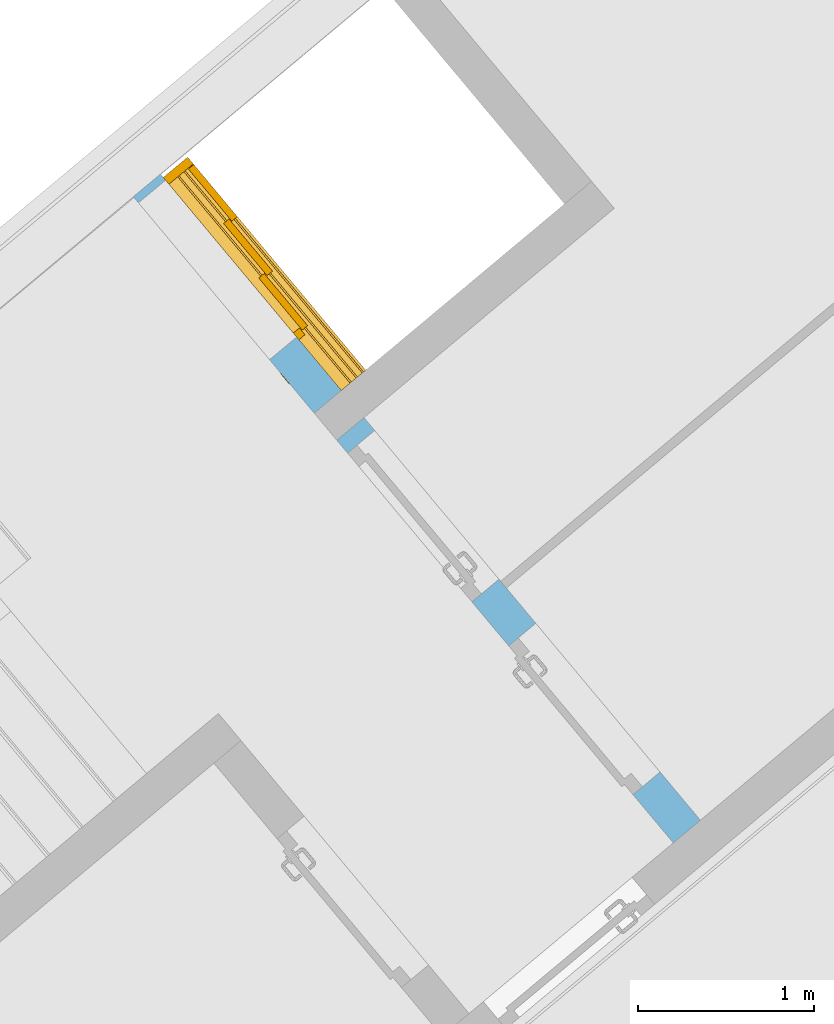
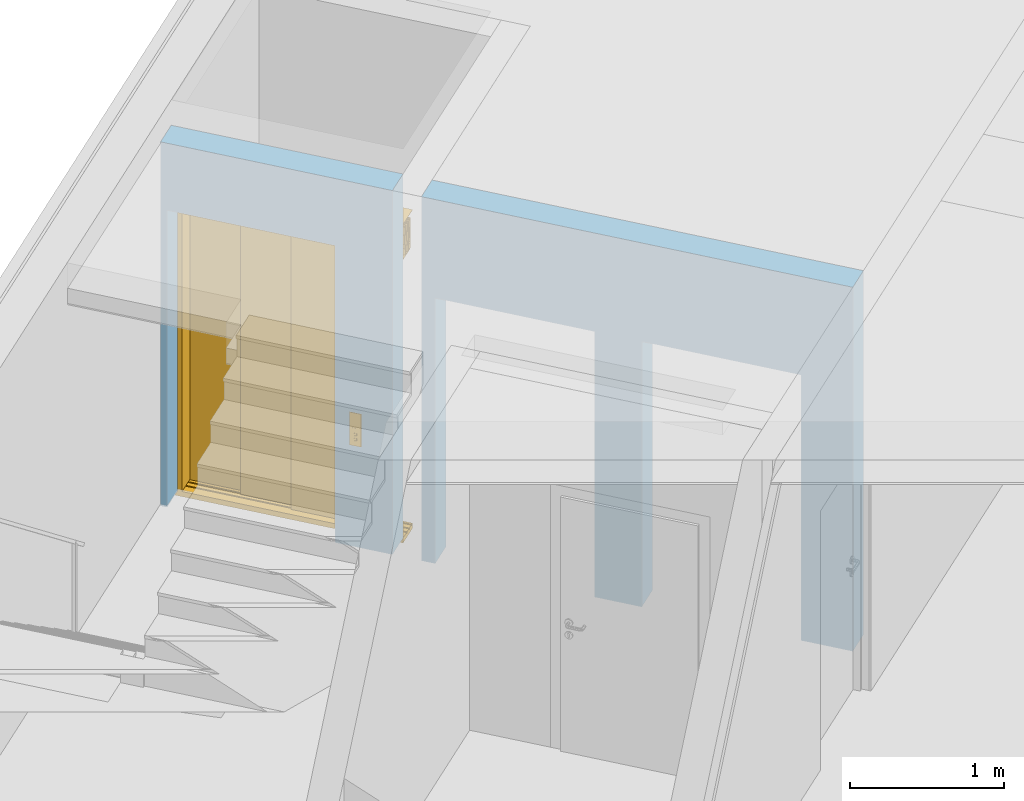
# One storey, part 6 of 14: 1 door, 3 openings, plus 1 element that does not belong to this part.
"""IFC4 building model written with IfcOpenShell, lengths in metres."""

from ifc_helpers import new_model, entity, si_unit, converted_unit, derived_unit, direction, frame, origin_with_axes, place, context, subcontext, project, spatial, polygons, material, type_object, element, fill, save


model = new_model("IFC4")

# Units and contexts
model_context = context("Model", 3, precision=1e-05, world=origin_with_axes(), true_north=direction((0.0, 1.0)))
body_context = subcontext(model_context, "Body", "Model", "MODEL_VIEW")
ifc_project = project(units=[si_unit("LENGTHUNIT", "METRE"), si_unit("AREAUNIT", "SQUARE_METRE"), si_unit("VOLUMEUNIT", "CUBIC_METRE"), converted_unit("PLANEANGLEUNIT", "DEGREE", entity("IfcPlaneAngleMeasure", 0.0174532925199), si_unit("PLANEANGLEUNIT", "RADIAN"), dimensions=[0, 0, 0, 0, 0, 0, 0]), converted_unit("TIMEUNIT", "Year", entity("IfcTimeMeasure", 31556926.0), si_unit("TIMEUNIT", "SECOND"), dimensions=[0, 0, 1, 0, 0, 0, 0]), si_unit("MASSUNIT", "GRAM", prefix="KILO"), si_unit("THERMODYNAMICTEMPERATUREUNIT", "DEGREE_CELSIUS"), si_unit("LUMINOUSINTENSITYUNIT", "LUMEN"), si_unit("ENERGYUNIT", "JOULE", prefix="MEGA"), derived_unit("THERMALCONDUCTANCEUNIT", [(si_unit("POWERUNIT", "WATT"), 1), (si_unit("LENGTHUNIT", "METRE"), -1), (si_unit("THERMODYNAMICTEMPERATUREUNIT", "KELVIN"), -1)]), derived_unit("SPECIFICHEATCAPACITYUNIT", [(si_unit("ENERGYUNIT", "JOULE"), 1), (si_unit("MASSUNIT", "GRAM", prefix="KILO"), -1), (si_unit("THERMODYNAMICTEMPERATUREUNIT", "KELVIN"), -1)]), derived_unit("MASSDENSITYUNIT", [(si_unit("MASSUNIT", "GRAM", prefix="KILO"), 1), (si_unit("VOLUMEUNIT", "CUBIC_METRE"), -1)])], contexts=[model_context])

# Site, building, storey, space
site_placement = place(None, frame((-0.00153261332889, -0.00661245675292, 0.0), z_axis=(0.0, 0.0, 1.0), x_axis=(1.0, 0.0, 0.0)))
site = spatial("IfcSite", under=ifc_project, at=site_placement, Name="Gelände", CompositionType="ELEMENT")
building_placement = place(site_placement, origin_with_axes())
building = spatial("IfcBuilding", under=site, at=building_placement, Name="Gebäude", CompositionType="ELEMENT")
storey_placement = place(building_placement, frame((0.0, 0.0, -3.3), z_axis=(0.0, 0.0, 1.0), x_axis=(1.0, 0.0, 0.0)))
storey = spatial("IfcBuildingStorey", under=building, at=storey_placement, Name="UG1", CompositionType="ELEMENT", Elevation=-3.3)
space_placement = place(storey_placement, frame((1.60331277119, 27.0712922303, 0.0), z_axis=(0.0, 0.0, 1.0), x_axis=(-0.76736623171, -0.641209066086, 0.0)))
space = spatial("IfcSpace", under=storey, at=space_placement, CompositionType="ELEMENT", PredefinedType="NOTDEFINED")

# Wall, openings, door
ifc_material = material(Name="Stahlbeton Wand")
wall_type = type_object("IfcWallType", Name="Stahlbeton Wand 200", PredefinedType="NOTDEFINED")
wall_placement = place(space_placement, frame((1.65065098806, 4.97700945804, 0.0), z_axis=(0.0, 0.0, 1.0), x_axis=(5.92263839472e-07, -1.0, 0.0)))
wall = element("IfcWall", 1, at=wall_placement, inside=space, type_object=wall_type, material=ifc_material, Name="Wand-009", PredefinedType="NOTDEFINED", context=body_context, shape_type="Tessellation", body=[
    polygons([(4.93202469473, -8.03421372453e-06, 2.35), (4.93202469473, -8.03415251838e-06, 0.015), (4.93202469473, -8.03415251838e-06, 0.0), (4.97700945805, 0.0, 0.0), (4.97700945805, 0.0, 2.88), (3.37702469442, 0.0, 2.88), (3.37702469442, 0.0, 0.0), (3.77202469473, -8.03421372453e-06, 0.0), (3.77202469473, -8.03421372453e-06, 0.015), (3.77202469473, -8.03421372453e-06, 2.35), (4.93202469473, 0.2, 2.35), (4.93202469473, 0.2, 0.015), (4.93202469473, 0.2, 0.0), (4.97700957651, 0.2, 0.0), (4.97700957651, 0.2, 2.88), (3.37702469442, 0.2, 2.88), (3.37702469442, 0.2, 0.0), (3.77202469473, 0.2, 0.0), (3.77202469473, 0.2, 0.015), (3.77202469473, 0.2, 2.35)], [[[1, 2, 3, 4, 5, 6, 7, 8, 9, 10]], [[2, 1, 11, 12]], [[2, 12, 13, 3]], [[3, 13, 14, 4]], [[14, 15, 5, 4]], [[15, 16, 6, 5]], [[17, 7, 6, 16]], [[18, 8, 7, 17]], [[19, 9, 8, 18]], [[10, 9, 19, 20]], [[1, 10, 20, 11]], [[20, 19, 18, 17, 16, 15, 14, 13, 12, 11]]], closed=True),
    polygons([(1.98187331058, 0.13, 0.015), (1.98187331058, 0.2, 0.015), (1.98187331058, 0.2, 2.1), (1.98187331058, 0.0, 2.1), (1.98187331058, 0.0, 0.015), (1.98187331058, 0.0, 0.0), (1.98187331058, 0.2, 0.0), (1.65642288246, 0.2, 0.0), (1.65642288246, 0.2, 0.015), (1.65642288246, 0.2, 2.1), (0.556422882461, 0.2, 2.1), (0.556422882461, 0.2, 0.015), (0.556422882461, 0.2, 0.0), (0.200000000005, 0.2, 0.0), (0.200000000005, 0.2, 2.88), (3.17702469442, 0.2, 2.88), (3.17702469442, 0.2, 0.0), (3.08187331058, 0.2, 0.0), (3.08187331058, 0.2, 0.015), (3.08187331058, 0.2, 2.1), (3.08187331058, 0.0, 2.1), (3.08187331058, 0.0, 0.015), (3.08187331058, 0.0, 0.0), (3.17702469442, 0.0, 0.0), (3.17702469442, 0.0, 2.88), (0.200000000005, 0.0, 2.88), (0.200000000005, 0.0, 0.0), (0.556422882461, 0.0, 0.0), (0.556422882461, 0.0, 0.015), (0.556422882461, 0.0, 2.1), (1.65642288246, 0.0, 2.1), (1.65642288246, 0.0, 0.015), (1.65642288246, 0.0, 0.0), (3.08187331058, 0.13, 0.015)], [[[1, 2, 3, 4, 5]], [[2, 1, 5, 6, 7]], [[3, 2, 7, 8, 9, 10, 11, 12, 13, 14, 15, 16, 17, 18, 19, 20]], [[4, 3, 20, 21]], [[6, 5, 4, 21, 22, 23, 24, 25, 26, 27, 28, 29, 30, 31, 32, 33]], [[33, 8, 7, 6]], [[8, 33, 32, 9]], [[10, 9, 32, 31]], [[11, 10, 31, 30]], [[12, 11, 30, 29]], [[28, 13, 12, 29]], [[27, 14, 13, 28]], [[26, 15, 14, 27]], [[26, 25, 16, 15]], [[25, 24, 17, 16]], [[17, 24, 23, 18]], [[34, 19, 18, 23, 22]], [[20, 19, 34, 22, 21]]], closed=True),
])
opening_1_placement = place(wall_placement, frame((1.10642288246, 0.0, 0.0), z_axis=(0.0, 0.0, 1.0), x_axis=(1.0, 0.0, 0.0)))
element("IfcOpeningElement", 2, at=opening_1_placement, cuts=wall, Name="Tür-001", context=body_context, identifier="Reference", shape_type="Tessellation", body=[
    polygons([(-0.55, -2.62211393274, 2.1), (-0.55, -2.62211393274, 0.0), (0.55, -2.62211393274, 0.0), (0.55, -2.62211393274, 2.1), (-0.55, 2.82211393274, 2.1), (-0.55, 2.82211393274, 0.0), (0.55, 2.82211393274, 0.0), (0.55, 2.82211393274, 2.1)], [[[1, 2, 3, 4]], [[5, 6, 2, 1]], [[6, 7, 3, 2]], [[7, 8, 4, 3]], [[8, 5, 1, 4]], [[7, 6, 5, 8]]], closed=True),
])
opening_2_placement = place(wall_placement, frame((2.53187331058, 0.0, 0.0), z_axis=(0.0, 0.0, 1.0), x_axis=(1.0, 0.0, 0.0)))
element("IfcOpeningElement", 3, at=opening_2_placement, cuts=wall, Name="Tür-001", context=body_context, identifier="Reference", shape_type="Tessellation", body=[
    polygons([(0.55, 0.13, 0.0), (0.55, 0.13, 2.1), (0.55, -2.62211393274, 2.1), (0.55, -2.62211393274, 0.0), (0.55, 2.82211393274, 0.0), (0.55, 2.82211393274, 2.1), (-0.55, 0.13, 2.1), (-0.55, -2.62211393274, 2.1), (-0.55, 2.82211393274, 2.1), (-0.55, -2.62211393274, 0.0), (-0.55, 0.13, 0.0), (-0.55, 2.82211393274, 0.0)], [[[1, 2, 3, 4]], [[2, 1, 5, 6]], [[7, 8, 3, 2, 6, 9]], [[8, 10, 4, 3]], [[1, 4, 10, 11, 12, 5]], [[6, 5, 12, 9]], [[7, 11, 10, 8]], [[11, 7, 9, 12]]], closed=True),
])
opening_3_placement = place(wall_placement, frame((4.35202469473, 0.0, 0.0), z_axis=(0.0, 0.0, 1.0), x_axis=(1.0, 0.0, 0.0)))
opening_3 = element("IfcOpeningElement", 4, at=opening_3_placement, cuts=wall, Name="Tür-003", context=body_context, identifier="Reference", shape_type="Tessellation", body=[
    polygons([(0.58, 2.82211393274, 2.35), (0.58, 2.82211393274, 0.0), (-0.58, 2.82211393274, 0.0), (-0.58, 2.82211393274, 2.35), (0.58, -2.62211393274, 2.35), (0.58, -2.62211393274, 0.0), (-0.58, -2.62211393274, 0.0), (-0.58, -2.62211393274, 2.35)], [[[1, 2, 3, 4]], [[5, 6, 2, 1]], [[6, 7, 3, 2]], [[7, 8, 4, 3]], [[8, 5, 1, 4]], [[7, 6, 5, 8]]], closed=True),
])
door_type = type_object("IfcDoorType", Name="Teleskoptür 26", OperationType="DOUBLE_DOOR_SLIDING", PredefinedType="NOTDEFINED")
door_placement = place(opening_3_placement, frame((0.55, 0.0, 0.0), z_axis=(0.0, 0.0, 1.0), x_axis=(-1.0, 0.0, 0.0)))
door = element("IfcDoor", 5, at=door_placement, inside=space, type_object=door_type, Name="Tür-003", OverallHeight=2.35, OverallWidth=1.16, PredefinedType="NOTDEFINED", context=body_context, shape_type="Tessellation", body=[
    polygons([(1.525, 0.135, 2.2), (-0.05, 0.135, 2.2), (-0.05, 0.135, 2.238), (1.525, 0.135, 2.238), (1.525, 0.0, 2.2), (-0.05, 0.0, 2.2), (-0.05, 0.0, 2.48), (-0.05, 0.18, 2.48), (-0.05, 0.18, 2.477), (-0.05, 0.003, 2.477), (-0.05, 0.003, 2.203), (-0.05, 0.132, 2.203), (-0.05, 0.132, 2.238), (1.525, 0.132, 2.238), (1.525, 0.132, 2.203), (1.525, 0.003, 2.203), (1.525, 0.003, 2.477), (1.525, 0.18, 2.477), (1.525, 0.18, 2.48), (1.525, 0.0, 2.48)], [[[1, 2, 3, 4]], [[5, 6, 2, 1]], [[2, 6, 7, 8, 9, 10, 11, 12, 13, 3]], [[4, 3, 13, 14]], [[1, 4, 14, 15, 16, 17, 18, 19, 20, 5]], [[20, 7, 6, 5]], [[19, 8, 7, 20]], [[18, 9, 8, 19]], [[17, 10, 9, 18]], [[16, 11, 10, 17]], [[15, 12, 11, 16]], [[14, 13, 12, 15]]], closed=True),
    polygons([(1.525, 0.05, 2.203), (-0.05, 0.05, 2.203), (-0.05, 0.055, 2.203), (1.525, 0.055, 2.203), (1.525, 0.05, 2.44), (-0.05, 0.05, 2.44), (-0.05, 0.055, 2.44), (1.525, 0.055, 2.44)], [[[1, 2, 3, 4]], [[5, 6, 2, 1]], [[2, 6, 7, 3]], [[4, 3, 7, 8]], [[1, 4, 8, 5]], [[8, 7, 6, 5]]], closed=True),
    polygons([(1.525, 0.05, 2.43), (-0.05, 0.05, 2.43), (-0.05, 0.04, 2.43), (1.525, 0.04, 2.43), (1.525, 0.05, 2.37), (-0.05, 0.05, 2.37), (-0.05, 0.04, 2.37), (1.525, 0.04, 2.37)], [[[1, 2, 3, 4]], [[5, 6, 2, 1]], [[2, 6, 7, 3]], [[4, 3, 7, 8]], [[1, 4, 8, 5]], [[8, 7, 6, 5]]], closed=True),
    polygons([(1.525, 0.05, 2.3), (-0.05, 0.05, 2.3), (-0.05, 0.04, 2.3), (1.525, 0.04, 2.3), (1.525, 0.05, 2.26), (-0.05, 0.05, 2.26), (-0.05, 0.04, 2.26), (1.525, 0.04, 2.26)], [[[1, 2, 3, 4]], [[5, 6, 2, 1]], [[2, 6, 7, 3]], [[4, 3, 7, 8]], [[1, 4, 8, 5]], [[8, 7, 6, 5]]], closed=True),
    polygons([(1.525, 0.05, 2.37), (-0.05, 0.05, 2.37), (-0.05, 0.03, 2.37), (1.525, 0.03, 2.37), (1.525, 0.05, 2.3), (-0.05, 0.05, 2.3), (-0.05, 0.03, 2.3), (1.525, 0.03, 2.3)], [[[1, 2, 3, 4]], [[5, 6, 2, 1]], [[2, 6, 7, 3]], [[4, 3, 7, 8]], [[1, 4, 8, 5]], [[8, 7, 6, 5]]], closed=True),
    polygons([(1.525, 0.095, 2.203), (-0.05, 0.095, 2.203), (-0.05, 0.1, 2.203), (1.525, 0.1, 2.203), (1.525, 0.095, 2.44), (-0.05, 0.095, 2.44), (-0.05, 0.1, 2.44), (1.525, 0.1, 2.44)], [[[1, 2, 3, 4]], [[5, 6, 2, 1]], [[2, 6, 7, 3]], [[4, 3, 7, 8]], [[1, 4, 8, 5]], [[8, 7, 6, 5]]], closed=True),
    polygons([(1.525, 0.095, 2.43), (-0.05, 0.095, 2.43), (-0.05, 0.085, 2.43), (1.525, 0.085, 2.43), (1.525, 0.095, 2.37), (-0.05, 0.095, 2.37), (-0.05, 0.085, 2.37), (1.525, 0.085, 2.37)], [[[1, 2, 3, 4]], [[5, 6, 2, 1]], [[2, 6, 7, 3]], [[4, 3, 7, 8]], [[1, 4, 8, 5]], [[8, 7, 6, 5]]], closed=True),
    polygons([(1.525, 0.095, 2.3), (-0.05, 0.095, 2.3), (-0.05, 0.085, 2.3), (1.525, 0.085, 2.3), (1.525, 0.095, 2.26), (-0.05, 0.095, 2.26), (-0.05, 0.085, 2.26), (1.525, 0.085, 2.26)], [[[1, 2, 3, 4]], [[5, 6, 2, 1]], [[2, 6, 7, 3]], [[4, 3, 7, 8]], [[1, 4, 8, 5]], [[8, 7, 6, 5]]], closed=True),
    polygons([(1.525, 0.095, 2.37), (-0.05, 0.095, 2.37), (-0.05, 0.075, 2.37), (1.525, 0.075, 2.37), (1.525, 0.095, 2.3), (-0.05, 0.095, 2.3), (-0.05, 0.075, 2.3), (1.525, 0.075, 2.3)], [[[1, 2, 3, 4]], [[5, 6, 2, 1]], [[2, 6, 7, 3]], [[4, 3, 7, 8]], [[1, 4, 8, 5]], [[8, 7, 6, 5]]], closed=True),
    polygons([(1.525, 0.14, 2.203), (-0.05, 0.14, 2.203), (-0.05, 0.145, 2.203), (1.525, 0.145, 2.203), (1.525, 0.14, 2.44), (-0.05, 0.14, 2.44), (-0.05, 0.145, 2.44), (1.525, 0.145, 2.44)], [[[1, 2, 3, 4]], [[5, 6, 2, 1]], [[2, 6, 7, 3]], [[4, 3, 7, 8]], [[1, 4, 8, 5]], [[8, 7, 6, 5]]], closed=True),
    polygons([(1.525, 0.14, 2.43), (-0.05, 0.14, 2.43), (-0.05, 0.13, 2.43), (1.525, 0.13, 2.43), (1.525, 0.14, 2.37), (-0.05, 0.14, 2.37), (-0.05, 0.13, 2.37), (1.525, 0.13, 2.37)], [[[1, 2, 3, 4]], [[5, 6, 2, 1]], [[2, 6, 7, 3]], [[4, 3, 7, 8]], [[1, 4, 8, 5]], [[8, 7, 6, 5]]], closed=True),
    polygons([(1.525, 0.14, 2.3), (-0.05, 0.14, 2.3), (-0.05, 0.13, 2.3), (1.525, 0.13, 2.3), (1.525, 0.14, 2.26), (-0.05, 0.14, 2.26), (-0.05, 0.13, 2.26), (1.525, 0.13, 2.26)], [[[1, 2, 3, 4]], [[5, 6, 2, 1]], [[2, 6, 7, 3]], [[4, 3, 7, 8]], [[1, 4, 8, 5]], [[8, 7, 6, 5]]], closed=True),
    polygons([(1.525, 0.14, 2.37), (-0.05, 0.14, 2.37), (-0.05, 0.12, 2.37), (1.525, 0.12, 2.37), (1.525, 0.14, 2.3), (-0.05, 0.14, 2.3), (-0.05, 0.12, 2.3), (1.525, 0.12, 2.3)], [[[1, 2, 3, 4]], [[5, 6, 2, 1]], [[2, 6, 7, 3]], [[4, 3, 7, 8]], [[1, 4, 8, 5]], [[8, 7, 6, 5]]], closed=True),
    polygons([(1.525, 0.0, 0.0), (-0.05, 0.0, 0.0), (-0.05, 0.0, -0.04), (1.525, 0.0, -0.04), (1.525, 0.065, 0.0), (-0.05, 0.065, 0.0), (-0.05, 0.065, -0.01), (-0.05, 0.075, -0.01), (-0.05, 0.075, 0.0), (-0.05, 0.11, 0.0), (-0.05, 0.11, -0.01), (-0.05, 0.12, -0.01), (-0.05, 0.12, 0.0), (-0.05, 0.155, 0.0), (-0.05, 0.155, -0.01), (-0.05, 0.165, -0.01), (-0.05, 0.165, 0.0), (-0.05, 0.18, 0.0), (-0.05, 0.18, -0.04), (1.525, 0.18, -0.04), (1.525, 0.18, 0.0), (1.525, 0.165, 0.0), (1.525, 0.165, -0.01), (1.525, 0.155, -0.01), (1.525, 0.155, 0.0), (1.525, 0.12, 0.0), (1.525, 0.12, -0.01), (1.525, 0.11, -0.01), (1.525, 0.11, 0.0), (1.525, 0.075, 0.0), (1.525, 0.075, -0.01), (1.525, 0.065, -0.01)], [[[1, 2, 3, 4]], [[5, 6, 2, 1]], [[2, 6, 7, 8, 9, 10, 11, 12, 13, 14, 15, 16, 17, 18, 19, 3]], [[4, 3, 19, 20]], [[1, 4, 20, 21, 22, 23, 24, 25, 26, 27, 28, 29, 30, 31, 32, 5]], [[32, 7, 6, 5]], [[31, 8, 7, 32]], [[30, 9, 8, 31]], [[29, 10, 9, 30]], [[28, 11, 10, 29]], [[27, 12, 11, 28]], [[26, 13, 12, 27]], [[25, 14, 13, 26]], [[24, 15, 14, 25]], [[23, 16, 15, 24]], [[22, 17, 16, 23]], [[21, 18, 17, 22]], [[20, 19, 18, 21]]], closed=True),
    polygons([(1.1, 0.0, 0.0), (1.1, 0.0, 2.2), (1.1, 0.045, 2.2), (1.1, 0.045, 0.0), (1.15, 0.0, 0.0), (1.15, 0.0, 2.2), (1.15, 0.045, 2.2), (1.15, 0.045, 0.0)], [[[1, 2, 3, 4]], [[5, 6, 2, 1]], [[2, 6, 7, 3]], [[4, 3, 7, 8]], [[1, 4, 8, 5]], [[8, 7, 6, 5]]], closed=True),
    polygons([(-0.05, 0.0, 0.0), (-0.05, 0.0, 2.2), (-0.05, 0.18, 2.2), (-0.05, 0.18, 0.0), (0.0, 0.0, 0.0), (0.0, 0.0, 2.2), (0.0, 0.18, 2.2), (0.0, 0.18, 0.0)], [[[1, 2, 3, 4]], [[5, 6, 2, 1]], [[2, 6, 7, 3]], [[4, 3, 7, 8]], [[1, 4, 8, 5]], [[8, 7, 6, 5]]], closed=True),
    polygons([(1.23, -0.2, 0.8), (1.31, -0.2, 0.8), (1.31, -0.203, 0.8), (1.23, -0.203, 0.8), (1.23, -0.2, 1.06), (1.31, -0.2, 1.06), (1.24, -0.2, 1.03), (1.24, -0.2, 0.94), (1.3, -0.2, 0.94), (1.3, -0.2, 1.03), (1.26, -0.2, 0.84), (1.28, -0.2, 0.84), (1.28, -0.2, 0.86), (1.26, -0.2, 0.86), (1.26, -0.2, 0.88), (1.28, -0.2, 0.88), (1.28, -0.2, 0.9), (1.26, -0.2, 0.9), (1.31, -0.203, 1.06), (1.23, -0.203, 1.06), (1.24, -0.203, 1.03), (1.3, -0.203, 1.03), (1.3, -0.203, 0.94), (1.24, -0.203, 0.94), (1.26, -0.203, 0.84), (1.26, -0.203, 0.86), (1.28, -0.203, 0.86), (1.28, -0.203, 0.84), (1.26, -0.203, 0.88), (1.26, -0.203, 0.9), (1.28, -0.203, 0.9), (1.28, -0.203, 0.88)], [[[1, 2, 3, 4]], [[1, 5, 6, 2], [7, 8, 9, 10], [11, 12, 13, 14], [15, 16, 17, 18]], [[2, 6, 19, 3]], [[4, 3, 19, 20], [21, 22, 23, 24], [25, 26, 27, 28], [29, 30, 31, 32]], [[5, 1, 4, 20]], [[6, 5, 20, 19]], [[8, 7, 21, 24]], [[9, 8, 24, 23]], [[10, 9, 23, 22]], [[7, 10, 22, 21]], [[12, 11, 25, 28]], [[13, 12, 28, 27]], [[14, 13, 27, 26]], [[11, 14, 26, 25]], [[16, 15, 29, 32]], [[17, 16, 32, 31]], [[18, 17, 31, 30]], [[15, 18, 30, 29]]], closed=True),
    polygons([(1.24, -0.2, 0.94), (1.3, -0.2, 0.94), (1.3, -0.2025, 0.94), (1.24, -0.2025, 0.94), (1.24, -0.2, 1.03), (1.3, -0.2, 1.03), (1.3, -0.2025, 1.03), (1.24, -0.2025, 1.03)], [[[1, 2, 3, 4]], [[1, 5, 6, 2]], [[2, 6, 7, 3]], [[4, 3, 7, 8]], [[5, 1, 4, 8]], [[6, 5, 8, 7]]], closed=True),
    polygons([(1.254, -0.203, 1.005), (1.26, -0.203, 1.021), (1.266, -0.203, 1.005)], [[[1, 2, 3]]], closed=False),
    polygons([(1.28, -0.203, 1.005), (1.274, -0.203, 1.021), (1.286, -0.203, 1.021)], [[[1, 2, 3]]], closed=False),
    polygons([(1.26727272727, -0.2035, 0.982), (1.26727272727, -0.2035, 0.971636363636), (1.26590909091, -0.2035, 0.970272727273), (1.26454545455, -0.2035, 0.971636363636), (1.26454545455, -0.2035, 0.982), (1.26590909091, -0.2035, 0.983363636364)], [[[1, 2, 3, 4, 5, 6]]], closed=False),
    polygons([(1.26727272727, -0.2035, 0.968363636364), (1.26727272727, -0.2035, 0.958), (1.26590909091, -0.2035, 0.956636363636), (1.26454545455, -0.2035, 0.958), (1.26454545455, -0.2035, 0.968363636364), (1.26590909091, -0.2035, 0.969727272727)], [[[1, 2, 3, 4, 5, 6]]], closed=False),
    polygons([(1.28609090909, -0.2035, 0.982272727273), (1.27572727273, -0.2035, 0.982272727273), (1.27436363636, -0.2035, 0.983636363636), (1.27572727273, -0.2035, 0.985), (1.28609090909, -0.2035, 0.985), (1.28745454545, -0.2035, 0.983636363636)], [[[1, 2, 3, 4, 5, 6]]], closed=False),
    polygons([(1.28909090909, -0.2035, 0.982), (1.28909090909, -0.2035, 0.971636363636), (1.28772727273, -0.2035, 0.970272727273), (1.28636363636, -0.2035, 0.971636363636), (1.28636363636, -0.2035, 0.982), (1.28772727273, -0.2035, 0.983363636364)], [[[1, 2, 3, 4, 5, 6]]], closed=False),
    polygons([(1.28609090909, -0.2035, 0.968636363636), (1.27572727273, -0.2035, 0.968636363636), (1.27436363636, -0.2035, 0.97), (1.27572727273, -0.2035, 0.971363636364), (1.28609090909, -0.2035, 0.971363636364), (1.28745454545, -0.2035, 0.97)], [[[1, 2, 3, 4, 5, 6]]], closed=False),
    polygons([(1.27545454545, -0.2035, 0.968363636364), (1.27545454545, -0.2035, 0.958), (1.27409090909, -0.2035, 0.956636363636), (1.27272727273, -0.2035, 0.958), (1.27272727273, -0.2035, 0.968363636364), (1.27409090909, -0.2035, 0.969727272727)], [[[1, 2, 3, 4, 5, 6]]], closed=False),
    polygons([(1.28609090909, -0.2035, 0.955), (1.27572727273, -0.2035, 0.955), (1.27436363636, -0.2035, 0.956363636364), (1.27572727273, -0.2035, 0.957727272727), (1.28609090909, -0.2035, 0.957727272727), (1.28745454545, -0.2035, 0.956363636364)], [[[1, 2, 3, 4, 5, 6]]], closed=False),
    polygons([(1.28, -0.2, 0.84), (1.26, -0.2, 0.84), (1.26, -0.2, 0.86), (1.28, -0.2, 0.86), (1.28000000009, -0.2015, 0.83999999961), (1.25999999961, -0.2015, 0.83999999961), (1.25999999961, -0.2015, 0.860000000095), (1.28000000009, -0.2015, 0.860000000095), (1.27859999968, -0.202900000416, 0.841400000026), (1.26140000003, -0.202900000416, 0.841400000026), (1.26140000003, -0.202900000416, 0.858599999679), (1.27859999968, -0.202900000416, 0.858599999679)], [[[1, 2, 3, 4]], [[2, 1, 5, 6]], [[3, 2, 6, 7]], [[4, 3, 7, 8]], [[1, 4, 8, 5]], [[6, 5, 9, 10]], [[7, 6, 10, 11]], [[8, 7, 11, 12]], [[5, 8, 12, 9]], [[11, 10, 9, 12]]], closed=True),
    polygons([(1.275, -0.203, 0.855), (1.27, -0.203, 0.844), (1.265, -0.203, 0.855)], [[[1, 2, 3]]], closed=False),
    polygons([(1.28, -0.2, 0.88), (1.26, -0.2, 0.88), (1.26, -0.2, 0.9), (1.28, -0.2, 0.9), (1.28000000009, -0.2015, 0.87999999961), (1.25999999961, -0.2015, 0.87999999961), (1.25999999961, -0.2015, 0.900000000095), (1.28000000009, -0.2015, 0.900000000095), (1.27859999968, -0.202900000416, 0.881400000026), (1.26140000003, -0.202900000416, 0.881400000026), (1.26140000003, -0.202900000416, 0.898599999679), (1.27859999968, -0.202900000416, 0.898599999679)], [[[1, 2, 3, 4]], [[2, 1, 5, 6]], [[3, 2, 6, 7]], [[4, 3, 7, 8]], [[1, 4, 8, 5]], [[6, 5, 9, 10]], [[7, 6, 10, 11]], [[8, 7, 11, 12]], [[5, 8, 12, 9]], [[11, 10, 9, 12]]], closed=True),
    polygons([(1.275, -0.203, 0.885), (1.265, -0.203, 0.885), (1.27, -0.203, 0.896)], [[[1, 2, 3]]], closed=False),
    polygons([(0.39, 0.14, 0.003), (0.005, 0.14, 0.003), (0.005, 0.18, 0.003), (0.39, 0.18, 0.003), (0.39, 0.14, 2.2), (0.005, 0.14, 2.2), (0.005, 0.18, 2.2), (0.39, 0.18, 2.2)], [[[1, 2, 3, 4]], [[1, 5, 6, 2]], [[2, 6, 7, 3]], [[4, 3, 7, 8]], [[5, 1, 4, 8]], [[6, 5, 8, 7]]], closed=True),
    polygons([(0.755, 0.095, 0.003), (0.37, 0.095, 0.003), (0.37, 0.135, 0.003), (0.755, 0.135, 0.003), (0.755, 0.095, 2.2), (0.37, 0.095, 2.2), (0.37, 0.135, 2.2), (0.755, 0.135, 2.2)], [[[1, 2, 3, 4]], [[1, 5, 6, 2]], [[2, 6, 7, 3]], [[4, 3, 7, 8]], [[5, 1, 4, 8]], [[6, 5, 8, 7]]], closed=True),
    polygons([(1.12, 0.05, 0.003), (0.735, 0.05, 0.003), (0.735, 0.09, 0.003), (1.12, 0.09, 0.003), (1.12, 0.05, 2.2), (0.735, 0.05, 2.2), (0.735, 0.09, 2.2), (1.12, 0.09, 2.2)], [[[1, 2, 3, 4]], [[1, 5, 6, 2]], [[2, 6, 7, 3]], [[4, 3, 7, 8]], [[5, 1, 4, 8]], [[6, 5, 8, 7]]], closed=True),
])
fill(opening_3, door)

save(model, "model.ifc")
